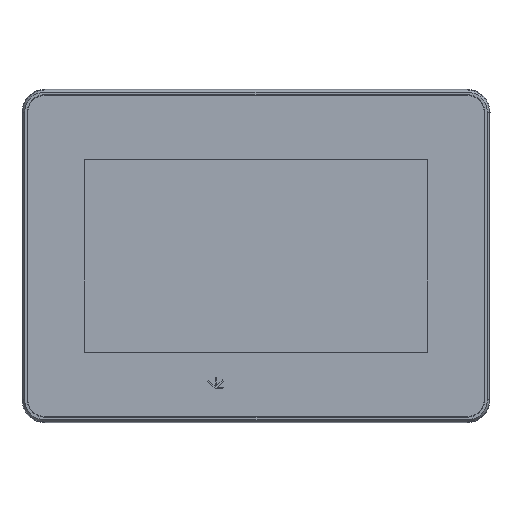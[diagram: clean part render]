
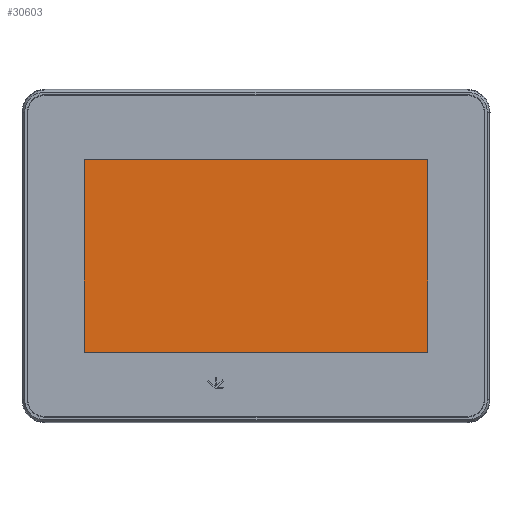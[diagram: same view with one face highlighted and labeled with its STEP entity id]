
A CAD part, top view. The second image highlights one B-rep face of the part: STEP entity #30603.
In plain terms, the highlighted planar face has unit normal (0, 0, 1).
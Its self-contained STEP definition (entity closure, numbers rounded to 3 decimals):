
#524 = CARTESIAN_POINT ( 'NONE',  ( -166.741, -51.446, 50.027 ) ) ;
#919 = VERTEX_POINT ( 'NONE', #16088 ) ;
#938 = DIRECTION ( 'NONE',  ( 1., 0., 0. ) ) ;
#1443 = EDGE_CURVE ( 'NONE', #919, #54468, #45555, .T. ) ;
#1534 = CARTESIAN_POINT ( 'NONE',  ( 6.466, -29.849, 50.027 ) ) ;
#4768 = CARTESIAN_POINT ( 'NONE',  ( -148.634, -29.849, 50.027 ) ) ;
#11549 = AXIS2_PLACEMENT_3D ( 'NONE', #524, #104250, #938 ) ;
#11572 = EDGE_CURVE ( 'NONE', #54468, #66738, #49021, .T. ) ;
#11966 = ORIENTED_EDGE ( 'NONE', *, *, #11572, .F. ) ;
#14042 = CARTESIAN_POINT ( 'NONE',  ( 6.466, -29.849, 50.027 ) ) ;
#16088 = CARTESIAN_POINT ( 'NONE',  ( -148.634, 57.071, 50.027 ) ) ;
#16137 = VECTOR ( 'NONE', #41840, 1000. ) ;
#23642 = ORIENTED_EDGE ( 'NONE', *, *, #59986, .F. ) ;
#26925 = EDGE_CURVE ( 'NONE', #69516, #919, #107386, .T. ) ;
#30603 = ADVANCED_FACE ( 'NONE', ( #107012 ), #86071, .T. ) ;
#41840 = DIRECTION ( 'NONE',  ( 0., 1., 0. ) ) ;
#42872 = CARTESIAN_POINT ( 'NONE',  ( 6.466, 57.071, 50.027 ) ) ;
#45555 = LINE ( 'NONE', #42872, #105933 ) ;
#49021 = LINE ( 'NONE', #14042, #96131 ) ;
#49097 = CARTESIAN_POINT ( 'NONE',  ( -148.634, -29.849, 50.027 ) ) ;
#54468 = VERTEX_POINT ( 'NONE', #116413 ) ;
#59986 = EDGE_CURVE ( 'NONE', #66738, #69516, #105948, .T. ) ;
#63905 = CARTESIAN_POINT ( 'NONE',  ( 6.466, -29.849, 50.027 ) ) ;
#66110 = VECTOR ( 'NONE', #96152, 1000. ) ;
#66738 = VERTEX_POINT ( 'NONE', #63905 ) ;
#69516 = VERTEX_POINT ( 'NONE', #49097 ) ;
#86071 = PLANE ( 'NONE',  #11549 ) ;
#89278 = DIRECTION ( 'NONE',  ( 0., -1., 0. ) ) ;
#91288 = ORIENTED_EDGE ( 'NONE', *, *, #26925, .F. ) ;
#96131 = VECTOR ( 'NONE', #89278, 1000. ) ;
#96152 = DIRECTION ( 'NONE',  ( -1., 0., 0. ) ) ;
#98371 = ORIENTED_EDGE ( 'NONE', *, *, #1443, .F. ) ;
#104250 = DIRECTION ( 'NONE',  ( 0., 0., 1. ) ) ;
#105933 = VECTOR ( 'NONE', #108708, 1000. ) ;
#105948 = LINE ( 'NONE', #1534, #66110 ) ;
#107012 = FACE_OUTER_BOUND ( 'NONE', #110126, .T. ) ;
#107386 = LINE ( 'NONE', #4768, #16137 ) ;
#108708 = DIRECTION ( 'NONE',  ( 1., 0., 0. ) ) ;
#110126 = EDGE_LOOP ( 'NONE', ( #11966, #98371, #91288, #23642 ) ) ;
#116413 = CARTESIAN_POINT ( 'NONE',  ( 6.466, 57.071, 50.027 ) ) ;
